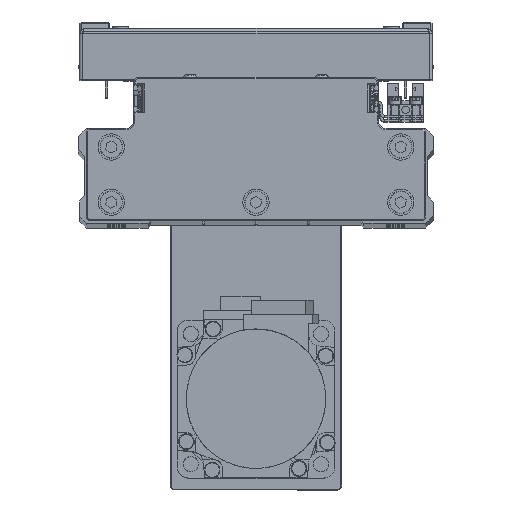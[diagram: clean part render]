
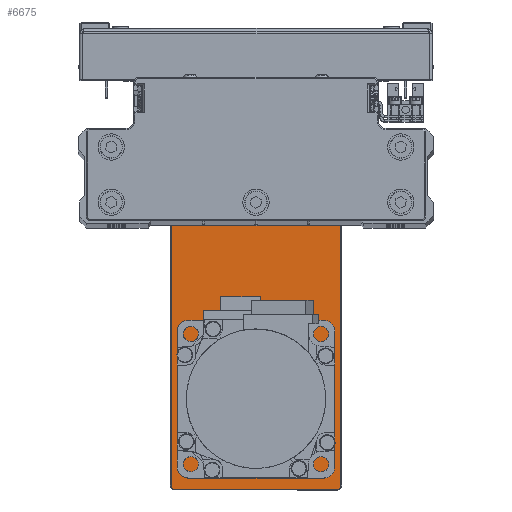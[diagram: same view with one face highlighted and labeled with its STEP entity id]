
A CAD part, top view. The second image highlights one B-rep face of the part: STEP entity #6675.
In plain terms, the highlighted planar face has unit normal (0, 0, 1) as drawn and (0, 1, 0) by its records, which use the part's own axes.
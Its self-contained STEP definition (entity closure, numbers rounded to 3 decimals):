
#607 = AXIS2_PLACEMENT_3D ( 'NONE', #25146, #38910, #8047 ) ;
#829 = CARTESIAN_POINT ( 'NONE',  ( 52.5, 6., 0. ) ) ;
#975 = DIRECTION ( 'NONE',  ( 0., 1., 0. ) ) ;
#1120 = LINE ( 'NONE', #14822, #35274 ) ;
#1348 = CARTESIAN_POINT ( 'NONE',  ( 83.5, 6., -31. ) ) ;
#1929 = DIRECTION ( 'NONE',  ( 1., 0., 0. ) ) ;
#2187 = ORIENTED_EDGE ( 'NONE', *, *, #16663, .F. ) ;
#2495 = EDGE_CURVE ( 'NONE', #43913, #43484, #37397, .T. ) ;
#2715 = CIRCLE ( 'NONE', #27882, 10.3 ) ;
#2772 = EDGE_CURVE ( 'NONE', #34057, #12049, #41381, .T. ) ;
#4120 = CARTESIAN_POINT ( 'NONE',  ( -50.5, 6., 0. ) ) ;
#5079 = CARTESIAN_POINT ( 'NONE',  ( 61.051, 6., 25.017 ) ) ;
#5229 = EDGE_CURVE ( 'NONE', #30434, #11048, #19017, .T. ) ;
#5549 = DIRECTION ( 'NONE',  ( 0., 1., 0. ) ) ;
#6399 = CARTESIAN_POINT ( 'NONE',  ( 0., 6., -32.2 ) ) ;
#6507 = CARTESIAN_POINT ( 'NONE',  ( 61.051, 6., 21.967 ) ) ;
#6515 = ORIENTED_EDGE ( 'NONE', *, *, #30438, .T. ) ;
#6668 = CARTESIAN_POINT ( 'NONE',  ( 52.5, 6., -10.3 ) ) ;
#6675 = ADVANCED_FACE ( 'NONE', ( #44480, #13601, #27340, #41103, #10241 ), #23969, .F. ) ;
#6866 = DIRECTION ( 'NONE',  ( 0., -1., 0. ) ) ;
#6923 = EDGE_LOOP ( 'NONE', ( #28538, #2187 ) ) ;
#7249 = DIRECTION ( 'NONE',  ( 0., 1., 0. ) ) ;
#7390 = DIRECTION ( 'NONE',  ( 0., 0., 1. ) ) ;
#7810 = CIRCLE ( 'NONE', #32963, 1.525 ) ;
#8047 = DIRECTION ( 'NONE',  ( 0., 0., -1. ) ) ;
#8511 = CARTESIAN_POINT ( 'NONE',  ( 83.5, 6., -32.2 ) ) ;
#9295 = EDGE_CURVE ( 'NONE', #40776, #34089, #38881, .T. ) ;
#9636 = AXIS2_PLACEMENT_3D ( 'NONE', #24501, #38250, #7390 ) ;
#9949 = DIRECTION ( 'NONE',  ( 0., 1., 0. ) ) ;
#10241 = FACE_BOUND ( 'NONE', #17889, .T. ) ;
#10515 = CARTESIAN_POINT ( 'NONE',  ( 75.992, 6., -8.551 ) ) ;
#10524 = CARTESIAN_POINT ( 'NONE',  ( -84.7, 6., 0. ) ) ;
#11015 = AXIS2_PLACEMENT_3D ( 'NONE', #31824, #975, #14682 ) ;
#11048 = VERTEX_POINT ( 'NONE', #21291 ) ;
#11138 = CIRCLE ( 'NONE', #36323, 1.525 ) ;
#11359 = AXIS2_PLACEMENT_3D ( 'NONE', #29277, #43041, #12180 ) ;
#11443 = CARTESIAN_POINT ( 'NONE',  ( -84.7, 6., -31. ) ) ;
#11899 = CARTESIAN_POINT ( 'NONE',  ( -84.7, 6., 31. ) ) ;
#12049 = VERTEX_POINT ( 'NONE', #11899 ) ;
#12180 = DIRECTION ( 'NONE',  ( 0., 0., -1. ) ) ;
#12369 = EDGE_CURVE ( 'NONE', #29837, #13524, #29054, .T. ) ;
#12603 = DIRECTION ( 'NONE',  ( 0., 0., 1. ) ) ;
#12698 = VERTEX_POINT ( 'NONE', #6668 ) ;
#12755 = CIRCLE ( 'NONE', #37958, 15. ) ;
#13286 = ORIENTED_EDGE ( 'NONE', *, *, #2495, .F. ) ;
#13524 = VERTEX_POINT ( 'NONE', #37177 ) ;
#13601 = FACE_BOUND ( 'NONE', #29369, .T. ) ;
#14309 = ORIENTED_EDGE ( 'NONE', *, *, #34427, .T. ) ;
#14532 = DIRECTION ( 'NONE',  ( 0., -1., 0. ) ) ;
#14645 = VERTEX_POINT ( 'NONE', #23215 ) ;
#14682 = DIRECTION ( 'NONE',  ( 0., 0., -1. ) ) ;
#14822 = CARTESIAN_POINT ( 'NONE',  ( 84.7, 6., 0. ) ) ;
#15062 = DIRECTION ( 'NONE',  ( 0., 1., 0. ) ) ;
#15434 = EDGE_CURVE ( 'NONE', #13524, #29837, #11138, .T. ) ;
#16663 = EDGE_CURVE ( 'NONE', #26861, #31781, #42609, .T. ) ;
#17761 = CARTESIAN_POINT ( 'NONE',  ( -50.5, 6., -15. ) ) ;
#17819 = DIRECTION ( 'NONE',  ( 0., 1., 0. ) ) ;
#17889 = EDGE_LOOP ( 'NONE', ( #26901, #13286 ) ) ;
#17936 = AXIS2_PLACEMENT_3D ( 'NONE', #38100, #7249, #20965 ) ;
#17957 = AXIS2_PLACEMENT_3D ( 'NONE', #40806, #9949, #23698 ) ;
#18941 = CARTESIAN_POINT ( 'NONE',  ( 84.7, 6., -31. ) ) ;
#19017 = LINE ( 'NONE', #32776, #37859 ) ;
#19250 = DIRECTION ( 'NONE',  ( 0., 0., 1. ) ) ;
#19421 = AXIS2_PLACEMENT_3D ( 'NONE', #1348, #15062, #28812 ) ;
#19985 = CIRCLE ( 'NONE', #607, 1.2 ) ;
#20115 = DIRECTION ( 'NONE',  ( -1., 0., 0. ) ) ;
#20578 = DIRECTION ( 'NONE',  ( 0., 0., -1. ) ) ;
#20965 = DIRECTION ( 'NONE',  ( 0., 0., -1. ) ) ;
#21036 = ORIENTED_EDGE ( 'NONE', *, *, #30640, .T. ) ;
#21291 = CARTESIAN_POINT ( 'NONE',  ( 83.5, 6., 32.2 ) ) ;
#22186 = ORIENTED_EDGE ( 'NONE', *, *, #41032, .T. ) ;
#22456 = ORIENTED_EDGE ( 'NONE', *, *, #36958, .T. ) ;
#22698 = CARTESIAN_POINT ( 'NONE',  ( -83.5, 6., -32.2 ) ) ;
#22769 = ORIENTED_EDGE ( 'NONE', *, *, #15434, .F. ) ;
#23165 = AXIS2_PLACEMENT_3D ( 'NONE', #29727, #43481, #12603 ) ;
#23215 = CARTESIAN_POINT ( 'NONE',  ( 84.7, 6., 31. ) ) ;
#23698 = DIRECTION ( 'NONE',  ( 0., 0., 1. ) ) ;
#23817 = EDGE_CURVE ( 'NONE', #33521, #12698, #30777, .T. ) ;
#23969 = PLANE ( 'NONE',  #27868 ) ;
#24088 = EDGE_CURVE ( 'NONE', #11048, #14645, #19985, .T. ) ;
#24212 = EDGE_CURVE ( 'NONE', #31781, #26861, #7810, .T. ) ;
#24238 = DIRECTION ( 'NONE',  ( 0., 1., 0. ) ) ;
#24252 = DIRECTION ( 'NONE',  ( 0., 0., 1. ) ) ;
#24501 = CARTESIAN_POINT ( 'NONE',  ( 75.992, 6., -8.551 ) ) ;
#25003 = EDGE_CURVE ( 'NONE', #43484, #43913, #12755, .T. ) ;
#25146 = CARTESIAN_POINT ( 'NONE',  ( 83.5, 6., 31. ) ) ;
#26860 = CARTESIAN_POINT ( 'NONE',  ( -83.5, 6., 32.2 ) ) ;
#26861 = VERTEX_POINT ( 'NONE', #6507 ) ;
#26901 = ORIENTED_EDGE ( 'NONE', *, *, #25003, .F. ) ;
#27340 = FACE_BOUND ( 'NONE', #39487, .T. ) ;
#27868 = AXIS2_PLACEMENT_3D ( 'NONE', #37724, #6866, #20578 ) ;
#27882 = AXIS2_PLACEMENT_3D ( 'NONE', #829, #14532, #28275 ) ;
#28275 = DIRECTION ( 'NONE',  ( 0., 0., -1. ) ) ;
#28538 = ORIENTED_EDGE ( 'NONE', *, *, #24212, .F. ) ;
#28567 = DIRECTION ( 'NONE',  ( 0., 0., -1. ) ) ;
#28812 = DIRECTION ( 'NONE',  ( 0., 0., -1. ) ) ;
#28973 = CARTESIAN_POINT ( 'NONE',  ( 75.992, 6., -10.076 ) ) ;
#29054 = CIRCLE ( 'NONE', #9636, 1.525 ) ;
#29277 = CARTESIAN_POINT ( 'NONE',  ( 52.5, 6., 0. ) ) ;
#29369 = EDGE_LOOP ( 'NONE', ( #22769, #34797 ) ) ;
#29727 = CARTESIAN_POINT ( 'NONE',  ( 61.051, 6., 23.492 ) ) ;
#29837 = VERTEX_POINT ( 'NONE', #28973 ) ;
#30410 = CIRCLE ( 'NONE', #11015, 1.2 ) ;
#30434 = VERTEX_POINT ( 'NONE', #26860 ) ;
#30438 = EDGE_CURVE ( 'NONE', #34089, #44071, #37240, .T. ) ;
#30557 = ORIENTED_EDGE ( 'NONE', *, *, #23817, .T. ) ;
#30603 = VECTOR ( 'NONE', #24252, 1000. ) ;
#30640 = EDGE_CURVE ( 'NONE', #44071, #34057, #30410, .T. ) ;
#30777 = CIRCLE ( 'NONE', #11359, 10.3 ) ;
#31580 = DIRECTION ( 'NONE',  ( 0., 0., 1. ) ) ;
#31781 = VERTEX_POINT ( 'NONE', #5079 ) ;
#31824 = CARTESIAN_POINT ( 'NONE',  ( -83.5, 6., -31. ) ) ;
#32776 = CARTESIAN_POINT ( 'NONE',  ( 0., 6., 32.2 ) ) ;
#32963 = AXIS2_PLACEMENT_3D ( 'NONE', #36400, #5549, #19250 ) ;
#33521 = VERTEX_POINT ( 'NONE', #35161 ) ;
#34057 = VERTEX_POINT ( 'NONE', #11443 ) ;
#34089 = VERTEX_POINT ( 'NONE', #8511 ) ;
#34427 = EDGE_CURVE ( 'NONE', #12698, #33521, #2715, .T. ) ;
#34797 = ORIENTED_EDGE ( 'NONE', *, *, #12369, .F. ) ;
#35033 = ORIENTED_EDGE ( 'NONE', *, *, #5229, .T. ) ;
#35161 = CARTESIAN_POINT ( 'NONE',  ( 52.5, 6., 10.3 ) ) ;
#35274 = VECTOR ( 'NONE', #28567, 1000. ) ;
#35503 = ORIENTED_EDGE ( 'NONE', *, *, #9295, .T. ) ;
#36323 = AXIS2_PLACEMENT_3D ( 'NONE', #10515, #24238, #37993 ) ;
#36400 = CARTESIAN_POINT ( 'NONE',  ( 61.051, 6., 23.492 ) ) ;
#36958 = EDGE_CURVE ( 'NONE', #14645, #40776, #1120, .T. ) ;
#37177 = CARTESIAN_POINT ( 'NONE',  ( 75.992, 6., -7.026 ) ) ;
#37240 = LINE ( 'NONE', #6399, #42653 ) ;
#37376 = CIRCLE ( 'NONE', #17936, 1.2 ) ;
#37397 = CIRCLE ( 'NONE', #17957, 15. ) ;
#37724 = CARTESIAN_POINT ( 'NONE',  ( 0., 6., 0. ) ) ;
#37859 = VECTOR ( 'NONE', #1929, 1000. ) ;
#37958 = AXIS2_PLACEMENT_3D ( 'NONE', #4120, #17819, #31580 ) ;
#37993 = DIRECTION ( 'NONE',  ( 0., 0., 1. ) ) ;
#38100 = CARTESIAN_POINT ( 'NONE',  ( -83.5, 6., 31. ) ) ;
#38250 = DIRECTION ( 'NONE',  ( 0., 1., 0. ) ) ;
#38792 = CARTESIAN_POINT ( 'NONE',  ( -50.5, 6., 15. ) ) ;
#38881 = CIRCLE ( 'NONE', #19421, 1.2 ) ;
#38910 = DIRECTION ( 'NONE',  ( 0., 1., 0. ) ) ;
#39487 = EDGE_LOOP ( 'NONE', ( #30557, #14309 ) ) ;
#40776 = VERTEX_POINT ( 'NONE', #18941 ) ;
#40806 = CARTESIAN_POINT ( 'NONE',  ( -50.5, 6., 0. ) ) ;
#41032 = EDGE_CURVE ( 'NONE', #12049, #30434, #37376, .T. ) ;
#41103 = FACE_OUTER_BOUND ( 'NONE', #41724, .T. ) ;
#41197 = ORIENTED_EDGE ( 'NONE', *, *, #24088, .T. ) ;
#41381 = LINE ( 'NONE', #10524, #30603 ) ;
#41724 = EDGE_LOOP ( 'NONE', ( #35503, #6515, #21036, #42087, #22186, #35033, #41197, #22456 ) ) ;
#42087 = ORIENTED_EDGE ( 'NONE', *, *, #2772, .T. ) ;
#42609 = CIRCLE ( 'NONE', #23165, 1.525 ) ;
#42653 = VECTOR ( 'NONE', #20115, 1000. ) ;
#43041 = DIRECTION ( 'NONE',  ( 0., -1., 0. ) ) ;
#43481 = DIRECTION ( 'NONE',  ( 0., 1., 0. ) ) ;
#43484 = VERTEX_POINT ( 'NONE', #38792 ) ;
#43913 = VERTEX_POINT ( 'NONE', #17761 ) ;
#44071 = VERTEX_POINT ( 'NONE', #22698 ) ;
#44480 = FACE_BOUND ( 'NONE', #6923, .T. ) ;
